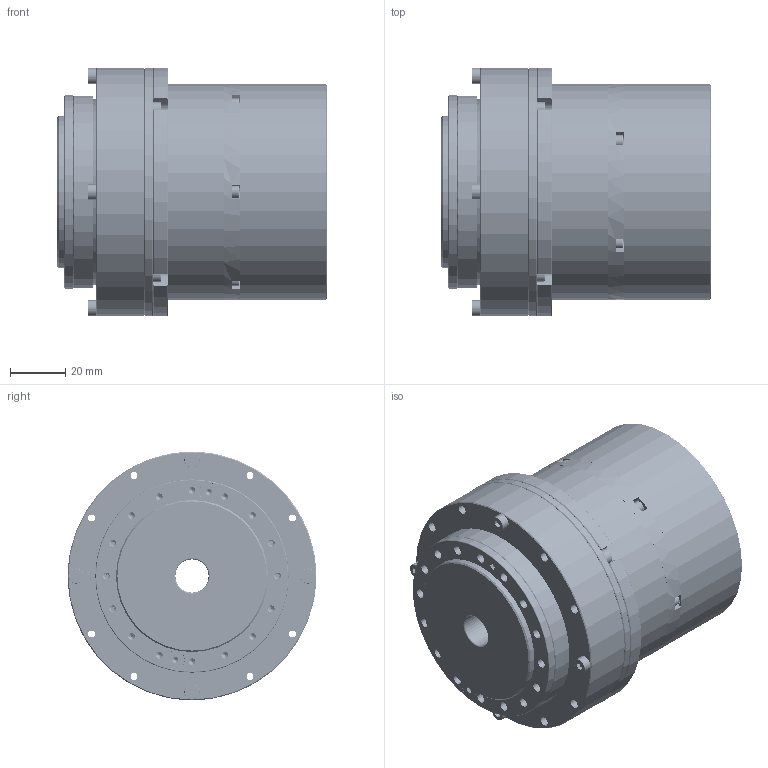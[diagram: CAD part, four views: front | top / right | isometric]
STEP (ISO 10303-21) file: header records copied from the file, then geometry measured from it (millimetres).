
FILE_DESCRIPTION (( 'STEP AP203' ), '1' );
FILE_NAME ('RH-20-100-E-B-D.STEP', '2026-01-08T09:29:16', ( '' ), ( '' ), 'SwSTEP 2.0', 'SolidWorks 2020', '' );
FILE_SCHEMA (( 'CONFIG_CONTROL_DESIGN' ));
Length unit declared in the file: millimetre
Products named in the file (11): 8MT.013.010（RH-20 抱闸盖）; GB╱T 70.1-2008[内六角圆柱头螺钉M2.5×25]_M2.5×25; RH-20-100-E-B-D; WHS-20-XX-I_Default<偌樓馱>; 8MT.013.061（RH-20 驱动器盖-ECAT）; GB╱T 70.3-2008[内六角沉头螺钉M3×10]_M3×10; 8MT.013.045（RH-20 减速机密封盖-抱闸+双编）_Default<按加工>; 8MT.034.003（RH-20 机座）; 8MT.013.152-惕掅裔 A1; GB╱T 70.1-2008[内六角圆柱头螺钉M3×25]_M3×25; GB╱T 70.1-2008[内六角圆柱头螺钉M2.5×10]_M2.5×10
Assembly tree (21 placements, depth 2):
  RH-20-100-E-B-D
    8MT.034.003（RH-20 机座）
    8MT.013.152-惕掅裔 A1
    8MT.013.010（RH-20 抱闸盖）
    8MT.013.061（RH-20 驱动器盖-ECAT）
    8MT.013.045（RH-20 减速机密封盖-抱闸+双编）_Default<按加工>
    WHS-20-XX-I_Default<偌樓馱>
    GB╱T 70.1-2008[内六角圆柱头螺钉M3×25]_M3×25  x4
    GB╱T 70.3-2008[内六角沉头螺钉M3×10]_M3×10  x2
    GB╱T 70.1-2008[内六角圆柱头螺钉M2.5×25]_M2.5×25  x3
    GB╱T 70.1-2008[内六角圆柱头螺钉M2.5×10]_M2.5×10  x6
Bounding box: 97.4 x 90 x 90 mm (x, y, z)
Volume: 295288 mm3; surface area: 177836.6 mm2
Topology: 42 solids, 42 shells, 1352 faces, 3237 edges, 2040 vertices
Faces by surface type: plane 509, cylinder 432, cone 251, bspline 84, torus 76
Full cylindrical faces by diameter (mm): 1.6 x6, 1.9 x1, 2.05 x12, 2.5 x52, 2.9 x15, 3 x18, 3.4 x26, 3.5 x60, 4.5 x9, 5 x6, 5.2 x4, 5.5 x12, 6 x8, 6.5 x4, 6.72 x2, 12 x1, 14 x2, 16 x1, 17 x1, 18 x2, 30 x1, 30.5 x1, 34.5 x1, 35 x2, 35.56 x1, 36.3 x1, 37 x1, 37.96 x1, 38 x1, 38.06 x2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
Entity records: 80771 total; most frequent: CARTESIAN_POINT 53771, DIRECTION 5418, ORIENTED_EDGE 4554, AXIS2_PLACEMENT_3D 2289, EDGE_CURVE 2277, EDGE_LOOP 1994, VERTEX_POINT 1677, FACE_OUTER_BOUND 1480
